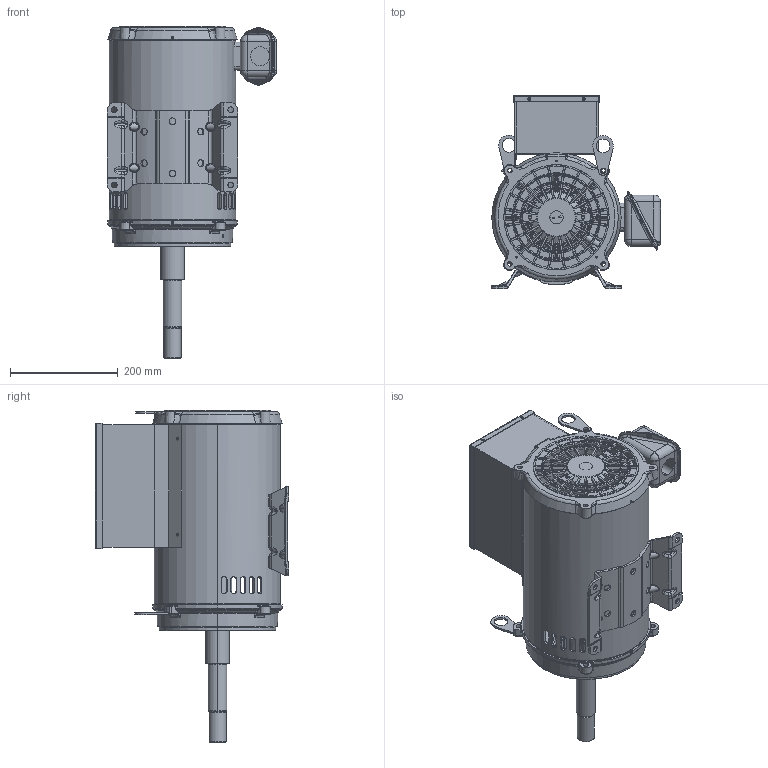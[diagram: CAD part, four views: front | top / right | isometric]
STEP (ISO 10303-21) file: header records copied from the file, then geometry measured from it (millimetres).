
FILE_DESCRIPTION((''),'2;1');
FILE_NAME('AF92_ASM','2014-07-30T',('NMC779F'),('Nidec Motor Corporation'),'PRO/ENGINEER BY PARAMETRIC TECHNOLOGY CORPORATION, 2013150','PRO/ENGINEER BY PARAMETRIC TECHNOLOGY CORPORATION, 2013150','');
FILE_SCHEMA(('CONFIG_CONTROL_DESIGN'));
Length unit declared in the file: inch
Products named in the file (17): 213_FRAME; 0903710-BKT_AF0; 0298010_AF0; 0903711_ASM; 0380748-BKT_AF1; 0362224_AF1; 0380749_ASM; 0172877; 0390418; 0390408; 0390417; 0376890; 0904184; 0904483; 0495310; 0951821; AF92_ASM
Assembly tree (17 placements, depth 3):
  AF92_ASM
    213_FRAME
    0903711_ASM
      0903710-BKT_AF0
      0298010_AF0
    0380749_ASM
      0380748-BKT_AF1
      0362224_AF1
    0172877
    0390418
    0390408
    0390417
    0376890  x2
    0904184
    0904483
    0495310
    0951821
Bounding box: 313.72 x 359.1 x 615.61 mm (x, y, z)
Volume: 3307572 mm3; surface area: 1528354.8 mm2
Topology: 17 solids, 17 shells, 2606 faces, 6645 edges, 4015 vertices
Faces by surface type: plane 631, cylinder 623, bspline 567, cone 360, torus 295, sphere 106, extrusion 24
Entity records: 107847 total; most frequent: CARTESIAN_POINT 50096, ORIENTED_EDGE 13178, DIRECTION 10543, EDGE_CURVE 6589, AXIS2_PLACEMENT_3D 4312, VERTEX_POINT 3999, EDGE_LOOP 2800, FACE_OUTER_BOUND 2596
